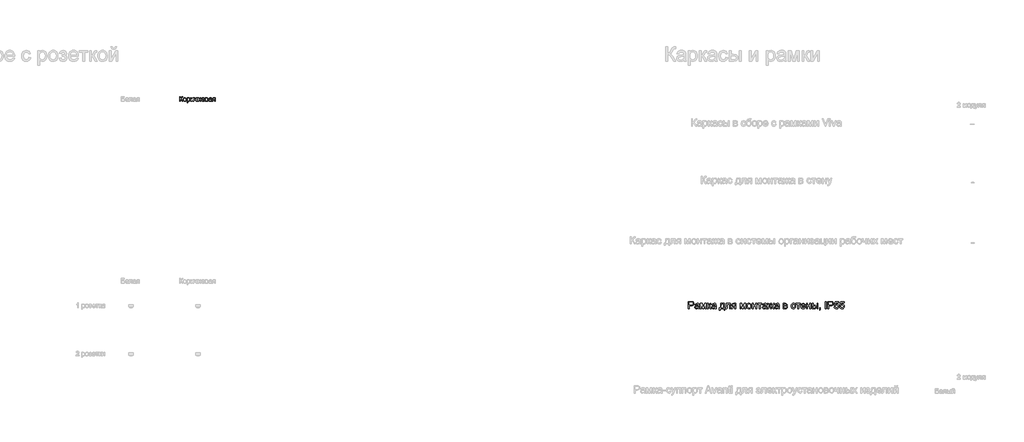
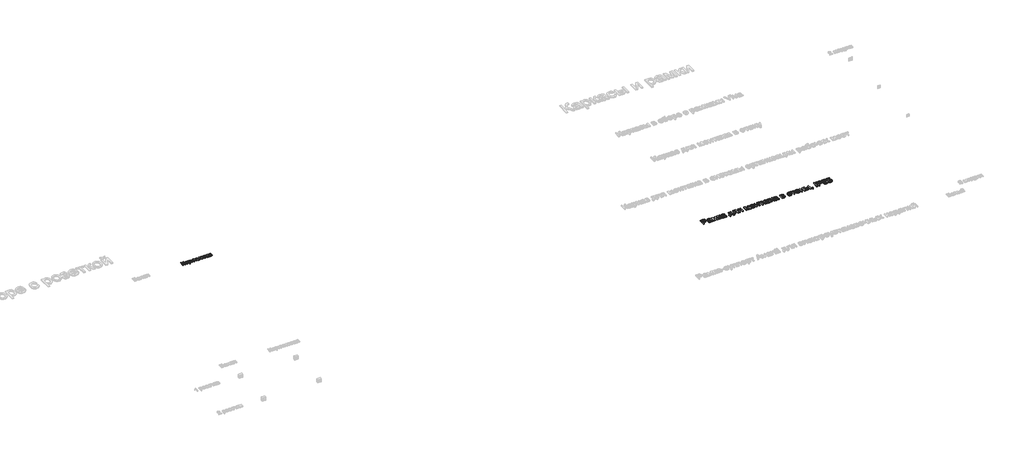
# One storey, part 44 of 48: 2 proxies.
"""IFC4 building model written with IfcOpenShell, lengths in millimetres."""

from ifc_helpers import new_model, si_unit, origin, origin_with_axes, place, context, project, spatial, polyline, outline, extrude, element, save

model = new_model("IFC4")

# Units and contexts
model_context = context("Model", 3, world=origin())
ifc_project = project(units=[si_unit("LENGTHUNIT", "METRE", prefix="MILLI")], contexts=[model_context])

# Site, building, storey
site = spatial("IfcSite", under=ifc_project)
building = spatial("IfcBuilding", under=site)
storey = spatial("IfcBuildingStorey", under=building, Name="Этаж 01", Elevation=0.0)

# Proxies
placement = place(None, origin())
element("IfcBuildingElementProxy", 1, Name="150 мм Arial", ObjectType="150 мм Arial", at=placement, inside=storey, context=model_context, shape_type="SweptSolid", body=[
    extrude(outline(polyline([(71366.9361332, 40.6087331), (71366.9361332, 191.2931984), (71422.7806201, 191.2931984), (71445.2949982, 189.8584586), (71463.5971275, 182.8135184), (71475.4613218, 168.2453914), (71479.9494822, 147.6991819), (71476.9190542, 129.9396786), (71467.8277704, 115.1416254), (71450.8270237, 105.1536292), (71424.0682071, 101.8242971), (71385.7716914, 101.8242971), (71385.7716914, 40.6087331), (71366.9361332, 40.6087331)]), holes=[polyline([(71385.7716914, 120.6598553), (71425.1718531, 120.6598553), (71441.8736957, 122.3889007), (71452.9101555, 127.5760368), (71459.0629819, 135.8993669), (71461.113924, 147.0369943), (71456.2762758, 162.6351909), (71443.5659528, 171.1700532), (71424.7303947, 172.4576402), (71385.7716914, 172.4576402), (71385.7716914, 120.6598553)])]), origin_with_axes(), (0.0, 0.0, 1.0), 20.0),
    extrude(outline(polyline([(71574.1272729, 54.7354018), (71555.8619319, 41.9698965), (71535.6836044, 38.2542884), (71519.9428536, 40.4891715), (71508.3315781, 47.1938209), (71501.1716748, 57.3749551), (71498.7850403, 70.0392928), (71502.3902839, 84.9385136), (71511.8632452, 95.7542442), (71525.0518148, 101.9346617), (71541.3489872, 104.7673531), (71574.0169083, 111.2420762), (71574.1272729, 115.435931), (71572.8304889, 123.8420346), (71568.9401368, 129.3418704), (71560.2397276, 133.4253605), (71548.1180159, 134.7865239), (71529.0617285, 131.1628863), (71519.9750432, 118.3054105), (71501.1394851, 120.6598553), (71509.2880713, 139.0539551), (71525.6956083, 149.8328975), (71550.546037, 153.6220821), (71573.3731148, 150.2743559), (71586.2673788, 141.8682523), (71592.0431261, 129.084353), (71592.9628311, 112.6032396), (71592.9628311, 89.1691565), (71593.9193243, 56.446053), (71597.6717206, 40.6087331), (71578.8361625, 40.6087331), (71574.1272729, 54.7354018)]), holes=[polyline([(71574.1272729, 92.4065181), (71543.7402201, 86.6307707), (71527.5350182, 83.5773502), (71520.1957724, 78.6109432), (71517.6205985, 71.3636679), (71523.2307989, 61.1733367), (71539.6935182, 57.0898465), (71558.7498055, 61.596401), (71571.0370642, 72.5041021), (71574.0169083, 87.0722291), (71574.1272729, 92.4065181)])]), origin_with_axes(), (0.0, 0.0, 1.0), 20.0),
    extrude(outline(polyline([(71618.8617235, 151.2676373), (71651.2721273, 151.2676373), (71676.2513148, 62.6816529), (71703.1802768, 151.2676373), (71734.2295172, 151.2676373), (71734.2295172, 40.6087331), (71715.3939591, 40.6087331), (71715.3939591, 129.7097524), (71688.3178442, 40.6087331), (71663.5961741, 40.6087331), (71637.6972817, 133.9771835), (71637.6972817, 40.6087331), (71618.8617235, 40.6087331), (71618.8617235, 151.2676373)])), origin_with_axes(), (0.0, 0.0, 1.0), 20.0),
    extrude(outline(polyline([(71762.4828545, 151.2676373), (71781.3184126, 151.2676373), (71781.3184126, 104.1787419), (71793.936765, 107.5632563), (71804.2742491, 127.2817312), (71812.8642937, 144.2962735), (71820.4426628, 149.8328975), (71834.2198435, 151.2676373), (71837.8250871, 151.2676373), (71837.8250871, 132.3217145), (71832.7483155, 132.4320791), (71823.5512657, 130.4455164), (71817.0765425, 118.0478931), (71809.4797793, 104.6385944), (71798.8295956, 98.0719008), (71810.712184, 90.741852), (71822.3740433, 75.3000053), (71842.5339766, 40.6087331), (71821.1232445, 40.6087331), (71801.3679813, 74.5642413), (71791.4351675, 88.9300332), (71781.3184126, 92.4065181), (71781.3184126, 40.6087331), (71762.4828545, 40.6087331), (71762.4828545, 151.2676373)])), origin_with_axes(), (0.0, 0.0, 1.0), 20.0),
    extrude(outline(polyline([(71924.9395435, 54.7354018), (71906.6742025, 41.9698965), (71886.495875, 38.2542884), (71870.7551242, 40.4891715), (71859.1438487, 47.1938209), (71851.9839454, 57.3749551), (71849.5973109, 70.0392928), (71853.2025545, 84.9385136), (71862.6755158, 95.7542442), (71875.8640854, 101.9346617), (71892.1612578, 104.7673531), (71924.8291789, 111.2420762), (71924.9395435, 115.435931), (71923.6427595, 123.8420346), (71919.7524074, 129.3418704), (71911.0519982, 133.4253605), (71898.9302865, 134.7865239), (71879.8739991, 131.1628863), (71870.7873138, 118.3054105), (71851.9517557, 120.6598553), (71860.1003419, 139.0539551), (71876.5078789, 149.8328975), (71901.3583076, 153.6220821), (71924.1853854, 150.2743559), (71937.0796494, 141.8682523), (71942.8553967, 129.084353), (71943.7751017, 112.6032396), (71943.7751017, 89.1691565), (71944.7315949, 56.446053), (71948.4839912, 40.6087331), (71929.6484331, 40.6087331), (71924.9395435, 54.7354018)]), holes=[polyline([(71924.9395435, 92.4065181), (71894.5524907, 86.6307707), (71878.3472888, 83.5773502), (71871.008043, 78.6109432), (71868.4328691, 71.3636679), (71874.0430695, 61.1733367), (71890.5057888, 57.0898465), (71909.5620761, 61.596401), (71921.8493348, 72.5041021), (71924.8291789, 87.0722291), (71924.9395435, 92.4065181)])]), origin_with_axes(), (0.0, 0.0, 1.0), 20.0),
    extrude(outline(polyline([(72045.0162267, 151.2676373), (72115.6495698, 151.2676373), (72115.6495698, 59.4442913), (72129.7762384, 59.4442913), (72129.7762384, 10.0009511), (72110.9406803, 10.0009511), (72110.9406803, 40.6087331), (72033.2440029, 40.6087331), (72033.2440029, 10.0009511), (72014.4084447, 10.0009511), (72014.4084447, 59.4442913), (72026.1806686, 59.4442913), (72034.7385235, 74.9091307), (72040.7304015, 95.3679681), (72045.0162267, 151.2676373)]), holes=[polyline([(72061.4973401, 132.4320791), (72057.0827562, 89.5186444), (72047.3706715, 59.4442913), (72096.8140117, 59.4442913), (72096.8140117, 132.4320791), (72061.4973401, 132.4320791)])]), origin_with_axes(), (0.0, 0.0, 1.0), 20.0),
    extrude(outline(polyline([(72160.3840204, 151.2676373), (72245.1440321, 151.2676373), (72245.1440321, 40.7190977), (72226.308474, 40.7190977), (72226.308474, 132.4320791), (72179.2195786, 132.4320791), (72179.2195786, 79.6410128), (72177.9503857, 55.2872248), (72170.9790219, 45.004923), (72154.4979085, 40.6087331), (72139.1940175, 41.5652263), (72139.1940175, 59.4442913), (72147.6185152, 59.4442913), (72156.1349834, 60.6031196), (72159.5378918, 64.2819395), (72160.3840204, 80.7078706), (72160.3840204, 151.2676373)])), origin_with_axes(), (0.0, 0.0, 1.0), 20.0),
    extrude(outline(polyline([(72358.157381, 151.2676373), (72358.157381, 40.6087331), (72339.3218229, 40.6087331), (72339.3218229, 82.988739), (72329.0579152, 82.988739), (72315.0783994, 80.597506), (72301.9450122, 64.5210628), (72286.9354268, 40.6087331), (72265.1568127, 40.6087331), (72284.0659472, 70.8486331), (72292.4168685, 81.701152), (72300.1056022, 86.5204061), (72287.2297324, 90.4659405), (72278.1798353, 97.9615362), (72272.8271523, 107.9311383), (72271.0429246, 119.2986919), (72273.4801428, 132.1929558), (72280.7917975, 142.4016812), (72292.7203712, 149.0511483), (72309.0083465, 151.2676373), (72358.157381, 151.2676373)]), holes=[polyline([(72339.3218229, 132.4320791), (72314.4897882, 132.4320791), (72301.6645022, 131.3422287), (72294.3850372, 128.0726775), (72289.8784827, 117.8639521), (72291.5385502, 110.6856547), (72296.5187528, 105.7054522), (72320.0448063, 101.8242971), (72339.3218229, 101.8242971), (72339.3218229, 132.4320791)])]), origin_with_axes(), (0.0, 0.0, 1.0), 20.0),
    extrude(outline(polyline([(72445.2718375, 151.2676373), (72477.6822413, 151.2676373), (72502.6614287, 62.6816529), (72529.5903908, 151.2676373), (72560.6396312, 151.2676373), (72560.6396312, 40.6087331), (72541.804073, 40.6087331), (72541.804073, 129.7097524), (72514.7279582, 40.6087331), (72490.0062881, 40.6087331), (72464.1073957, 133.9771835), (72464.1073957, 40.6087331), (72445.2718375, 40.6087331), (72445.2718375, 151.2676373)])), origin_with_axes(), (0.0, 0.0, 1.0), 20.0),
    extrude(outline(polyline([(72584.1840789, 95.9381852), (72588.258372, 122.6188269), (72600.4812513, 141.3716116), (72615.5828072, 150.5594645), (72633.6642072, 153.6220821), (72653.45166, 149.8926783), (72669.2567903, 138.7044672), (72679.617267, 120.9403653), (72683.0707592, 97.4832896), (72681.5440489, 78.4545934), (72676.9639181, 63.9692398), (72669.4637239, 53.1213195), (72659.1768236, 45.004923), (72646.9585428, 39.941947), (72633.6642072, 38.2542884), (72613.6376311, 41.9698965), (72597.850895, 53.116721), (72587.6007829, 71.2533033), (72584.1840789, 95.9381852)]), holes=[polyline([(72603.019637, 95.9749734), (72605.1993379, 78.9282415), (72611.7384403, 66.7835371), (72621.5792837, 59.5132692), (72633.6642072, 57.0898465), (72645.6939485, 59.5270647), (72655.5163977, 66.8387194), (72662.0555002, 79.1443721), (72664.235201, 96.5635846), (72662.0417046, 113.1136759), (72655.4612154, 125.0928333), (72645.6249706, 132.3631013), (72633.6642072, 134.7865239), (72621.5792837, 132.3722983), (72611.7384403, 125.1296215), (72605.1993379, 113.0125083), (72603.019637, 95.9749734)])]), origin_with_axes(), (0.0, 0.0, 1.0), 20.0),
    extrude(outline(polyline([(72704.2607621, 151.2676373), (72723.0963203, 151.2676373), (72723.0963203, 108.8876314), (72772.5396604, 108.8876314), (72772.5396604, 151.2676373), (72791.3752186, 151.2676373), (72791.3752186, 40.6087331), (72772.5396604, 40.6087331), (72772.5396604, 90.0520733), (72723.0963203, 90.0520733), (72723.0963203, 40.6087331), (72704.2607621, 40.6087331), (72704.2607621, 151.2676373)])), origin_with_axes(), (0.0, 0.0, 1.0), 20.0),
    extrude(outline(polyline([(72810.2107767, 151.2676373), (72899.6796779, 151.2676373), (72899.6796779, 132.4320791), (72864.3630064, 132.4320791), (72864.3630064, 40.6087331), (72845.5274483, 40.6087331), (72845.5274483, 132.4320791), (72810.2107767, 132.4320791), (72810.2107767, 151.2676373)])), origin_with_axes(), (0.0, 0.0, 1.0), 20.0),
    extrude(outline(polyline([(72986.7941344, 54.7354018), (72968.5287933, 41.9698965), (72948.3504659, 38.2542884), (72932.609715, 40.4891715), (72920.9984396, 47.1938209), (72913.8385362, 57.3749551), (72911.4519018, 70.0392928), (72915.0571453, 84.9385136), (72924.5301067, 95.7542442), (72937.7186762, 101.9346617), (72954.0158486, 104.7673531), (72986.6837698, 111.2420762), (72986.7941344, 115.435931), (72985.4973504, 123.8420346), (72981.6069983, 129.3418704), (72972.9065891, 133.4253605), (72960.7848773, 134.7865239), (72941.72859, 131.1628863), (72932.6419047, 118.3054105), (72913.8063466, 120.6598553), (72921.9549328, 139.0539551), (72938.3624697, 149.8328975), (72963.2128985, 153.6220821), (72986.0399763, 150.2743559), (72998.9342402, 141.8682523), (73004.7099876, 129.084353), (73005.6296926, 112.6032396), (73005.6296926, 89.1691565), (73006.5861857, 56.446053), (73010.3385821, 40.6087331), (72991.5030239, 40.6087331), (72986.7941344, 54.7354018)]), holes=[polyline([(72986.7941344, 92.4065181), (72956.4070816, 86.6307707), (72940.2018797, 83.5773502), (72932.8626339, 78.6109432), (72930.2874599, 71.3636679), (72935.8976604, 61.1733367), (72952.3603797, 57.0898465), (72971.416667, 61.596401), (72983.7039256, 72.5041021), (72986.6837698, 87.0722291), (72986.7941344, 92.4065181)])]), origin_with_axes(), (0.0, 0.0, 1.0), 20.0),
    extrude(outline(polyline([(73099.8074833, 151.2676373), (73099.8074833, 104.1787419), (73110.7887609, 108.059897), (73121.1814272, 128.2014362), (73133.5790505, 147.5152409), (73151.200598, 151.2676373), (73158.6686025, 151.2676373), (73158.6686025, 132.3217145), (73153.4814664, 132.4320791), (73143.7693817, 130.4823046), (73137.0371412, 118.2686223), (73129.2196488, 104.8777177), (73118.0544303, 98.0719008), (73130.3692801, 90.741852), (73142.3714302, 75.3000053), (73163.3774921, 40.6087331), (73141.782819, 40.6087331), (73121.1078508, 74.8217587), (73110.5680317, 89.0403978), (73099.8074833, 92.4065181), (73099.8074833, 40.6087331), (73080.9719252, 40.6087331), (73080.9719252, 92.4065181), (73070.248165, 89.1139742), (73059.6347694, 74.8953351), (73038.9598013, 40.6087331), (73017.4019164, 40.6087331), (73038.3344019, 75.3000053), (73050.4285225, 90.741852), (73062.7985546, 98.0719008), (73050.9527544, 105.5766935), (73040.7992113, 124.8904982), (73035.8328044, 131.2548568), (73027.7026123, 132.5424437), (73022.1108059, 132.4320791), (73022.1108059, 151.2676373), (73024.9434973, 151.2676373), (73041.4613989, 150.0904149), (73050.0330494, 145.0872198), (73059.6347694, 128.2014362), (73069.9170712, 108.1886557), (73080.9719252, 104.1787419), (73080.9719252, 151.2676373), (73099.8074833, 151.2676373)])), origin_with_axes(), (0.0, 0.0, 1.0), 20.0),
    extrude(outline(polyline([(73243.4286142, 54.7354018), (73225.1632732, 41.9698965), (73204.9849457, 38.2542884), (73189.2441949, 40.4891715), (73177.6329194, 47.1938209), (73170.4730161, 57.3749551), (73168.0863816, 70.0392928), (73171.6916252, 84.9385136), (73181.1645866, 95.7542442), (73194.3531561, 101.9346617), (73210.6503285, 104.7673531), (73243.3182496, 111.2420762), (73243.4286142, 115.435931), (73242.1318302, 123.8420346), (73238.2414781, 129.3418704), (73229.5410689, 133.4253605), (73217.4193572, 134.7865239), (73198.3630698, 131.1628863), (73189.2763845, 118.3054105), (73170.4408264, 120.6598553), (73178.5894126, 139.0539551), (73194.9969496, 149.8328975), (73219.8473783, 153.6220821), (73242.6744561, 150.2743559), (73255.5687201, 141.8682523), (73261.3444674, 129.084353), (73262.2641724, 112.6032396), (73262.2641724, 89.1691565), (73263.2206656, 56.446053), (73266.9730619, 40.6087331), (73248.1375038, 40.6087331), (73243.4286142, 54.7354018)]), holes=[polyline([(73243.4286142, 92.4065181), (73213.0415614, 86.6307707), (73196.8363595, 83.5773502), (73189.4971137, 78.6109432), (73186.9219398, 71.3636679), (73192.5321402, 61.1733367), (73208.9948595, 57.0898465), (73228.0511468, 61.596401), (73240.3384055, 72.5041021), (73243.3182496, 87.0722291), (73243.4286142, 92.4065181)])]), origin_with_axes(), (0.0, 0.0, 1.0), 20.0),
    extrude(outline(polyline([(73347.0241841, 151.2676373), (73388.5212731, 151.2676373), (73411.2747745, 148.7476456), (73424.077068, 139.5138075), (73429.429751, 123.4189703), (73426.1923894, 110.3407653), (73416.4435166, 101.0149568), (73429.0986572, 90.8062314), (73434.1386405, 73.0559251), (73430.9472642, 58.6993303), (73423.3596981, 48.5917724), (73411.3483509, 42.604493), (73394.8856317, 40.6087331), (73347.0241841, 40.6087331), (73347.0241841, 151.2676373)]), holes=[polyline([(73365.8597422, 108.8876314), (73384.4745712, 108.8876314), (73399.8336445, 109.8441246), (73407.301649, 113.6700974), (73410.5941928, 120.5862789), (73409.150256, 126.2056764), (73404.8184455, 129.820117), (73385.0631824, 132.4320791), (73365.8597422, 132.4320791), (73365.8597422, 108.8876314)]), polyline([(73365.8597422, 59.4442913), (73388.9627315, 59.4442913), (73409.4537587, 62.8471998), (73413.6935987, 67.4871114), (73415.3030824, 74.6010295), (73412.0841149, 83.6693207), (73403.6964054, 88.9484273), (73387.1233216, 90.0520733), (73365.8597422, 90.0520733), (73365.8597422, 59.4442913)])]), origin_with_axes(), (0.0, 0.0, 1.0), 20.0),
    extrude(outline(polyline([(73587.1775505, 80.6342942), (73606.0131087, 78.2798494), (73600.7615932, 61.5274231), (73590.8931587, 48.8676839), (73577.3367072, 40.9076373), (73561.0211407, 38.2542884), (73540.9853675, 41.9561009), (73525.318193, 53.0615387), (73515.2060367, 71.0831579), (73511.8353179, 95.533515), (73513.2746562, 112.2951384), (73517.5926711, 126.8218787), (73524.8583405, 138.5527158), (73535.1406423, 146.9266297), (73547.4416965, 151.948219), (73560.7636233, 153.6220821), (73576.6791181, 151.3228196), (73589.4032366, 144.4250322), (73598.5313086, 133.2966018), (73603.6586639, 118.3054105), (73584.8231058, 115.9509658), (73576.0859084, 130.0592403), (73560.9107761, 134.7865239), (73548.7384806, 132.4596703), (73539.0769797, 125.4791094), (73532.772402, 113.4677623), (73530.6708761, 96.0485498), (73532.7264167, 78.3948126), (73538.8930387, 66.3420787), (73548.3797956, 59.4029046), (73560.3957413, 57.0898465), (73570.1492127, 58.5337834), (73578.1460475, 62.8655939), (73583.9631816, 70.1956426), (73587.1775505, 80.6342942)])), origin_with_axes(), (0.0, 0.0, 1.0), 20.0),
    extrude(outline(polyline([(73613.076443, 151.2676373), (73702.5453442, 151.2676373), (73702.5453442, 132.4320791), (73667.2286727, 132.4320791), (73667.2286727, 40.6087331), (73648.3931145, 40.6087331), (73648.3931145, 132.4320791), (73613.076443, 132.4320791), (73613.076443, 151.2676373)])), origin_with_axes(), (0.0, 0.0, 1.0), 20.0),
    extrude(outline(polyline([(73796.5024058, 73.5709599), (73814.9700819, 71.2165151), (73808.3160164, 57.3013787), (73797.6980223, 46.8995153), (73783.355223, 40.4155951), (73765.5267418, 38.2542884), (73743.4262309, 41.9836921), (73726.4208857, 53.1719033), (73715.5775639, 71.092355), (73711.9631233, 95.0184802), (73715.6143521, 119.7493474), (73726.5680385, 138.2446147), (73743.3434575, 149.7777152), (73764.459884, 153.6220821), (73784.9187215, 149.7869123), (73801.2664776, 138.2814029), (73811.9856393, 119.8229238), (73815.5586931, 95.1288448), (73815.4483285, 90.0520733), (73730.7986814, 90.0520733), (73734.0590356, 75.9529958), (73741.6328062, 65.5879206), (73752.5635, 59.214365), (73765.8946238, 57.0898465), (73784.3622999, 61.0261839), (73796.5024058, 73.5709599)]), holes=[polyline([(73730.7986814, 108.8876314), (73796.723135, 108.8876314), (73794.1755522, 118.8388394), (73789.1815541, 125.957356), (73778.2002765, 132.5792319), (73764.3863076, 134.7865239), (73751.6897802, 133.0252889), (73741.1913478, 127.7415837), (73733.8934887, 119.5056255), (73730.7986814, 108.8876314)])]), origin_with_axes(), (0.0, 0.0, 1.0), 20.0),
    extrude(outline(polyline([(73834.3942513, 151.2676373), (73853.2298094, 151.2676373), (73853.2298094, 108.8876314), (73902.6731496, 108.8876314), (73902.6731496, 151.2676373), (73921.5087077, 151.2676373), (73921.5087077, 40.6087331), (73902.6731496, 40.6087331), (73902.6731496, 90.0520733), (73853.2298094, 90.0520733), (73853.2298094, 40.6087331), (73834.3942513, 40.6087331), (73834.3942513, 151.2676373)])), origin_with_axes(), (0.0, 0.0, 1.0), 20.0),
    extrude(outline(polyline([(74053.3576148, 151.2676373), (74072.193173, 151.2676373), (74072.193173, 40.6087331), (74053.3576148, 40.6087331), (74053.3576148, 151.2676373)])), origin_with_axes(), (0.0, 0.0, 1.0), 20.0),
    extrude(outline(polyline([(73949.762045, 151.2676373), (73968.5976031, 151.2676373), (73968.5976031, 111.2420762), (73991.8845334, 111.2420762), (74012.0122771, 108.8830329), (74026.9252935, 101.805903), (74036.154533, 90.5809037), (74039.2309462, 75.7782519), (74036.6511737, 62.2999753), (74028.9118562, 50.9278231), (74015.507156, 43.1885056), (73995.9312354, 40.6087331), (73949.762045, 40.6087331), (73949.762045, 151.2676373)]), holes=[polyline([(73968.5976031, 59.4442913), (73987.9481961, 59.4442913), (74012.9273835, 63.3990227), (74018.5283869, 68.4619987), (74020.395388, 75.7414637), (74014.858764, 87.3297465), (74005.9790124, 91.1373252), (73990.4130054, 92.4065181), (73968.5976031, 92.4065181), (73968.5976031, 59.4442913)])]), origin_with_axes(), (0.0, 0.0, 1.0), 20.0),
    extrude(outline(polyline([(74105.1553997, 40.6087331), (74105.1553997, 59.4442913), (74123.9909579, 59.4442913), (74123.9909579, 40.6087331), (74120.6064435, 21.3501107), (74109.8642893, 10.0009511), (74105.1553997, 17.0642855), (74112.0715812, 25.1944775), (74114.5363906, 40.6087331), (74105.1553997, 40.6087331)])), origin_with_axes(), (0.0, 0.0, 1.0), 20.0),
    extrude(outline(polyline([(74222.8776382, 40.6087331), (74222.8776382, 191.2931984), (74241.7131963, 191.2931984), (74241.7131963, 40.6087331), (74222.8776382, 40.6087331)])), origin_with_axes(), (0.0, 0.0, 1.0), 20.0),
    extrude(outline(polyline([(74279.3843127, 40.6087331), (74279.3843127, 191.2931984), (74335.2287995, 191.2931984), (74357.7431776, 189.8584586), (74376.0453069, 182.8135184), (74387.9095012, 168.2453914), (74392.3976616, 147.6991819), (74389.3672336, 129.9396786), (74380.2759498, 115.1416254), (74363.2752031, 105.1536292), (74336.5163865, 101.8242971), (74298.2198708, 101.8242971), (74298.2198708, 40.6087331), (74279.3843127, 40.6087331)]), holes=[polyline([(74298.2198708, 120.6598553), (74337.6200325, 120.6598553), (74354.3218751, 122.3889007), (74365.3583349, 127.5760368), (74371.5111613, 135.8993669), (74373.5621034, 147.0369943), (74368.7244552, 162.6351909), (74356.0141322, 171.1700532), (74337.1785741, 172.4576402), (74298.2198708, 172.4576402), (74298.2198708, 120.6598553)])]), origin_with_axes(), (0.0, 0.0, 1.0), 20.0),
    extrude(outline(polyline([(74411.2332197, 80.6342942), (74430.0687779, 82.988739), (74433.5268686, 71.6809662), (74439.5601334, 63.5829637), (74448.1409809, 58.7131258), (74459.2418201, 57.0898465), (74472.7430893, 59.3477223), (74482.8598442, 66.1213495), (74489.1782175, 76.628979), (74491.2843419, 90.0888615), (74489.3115747, 102.7623962), (74483.3932731, 112.4560868), (74473.4834518, 118.6089132), (74459.5361257, 120.6598553), (74442.99983, 117.3857055), (74432.4232226, 108.8876314), (74413.5876645, 111.2420762), (74430.0687779, 188.9387536), (74503.0565657, 188.9387536), (74503.0565657, 170.1031954), (74445.2990925, 170.1031954), (74437.2424768, 128.6061064), (74450.6977608, 136.7730867), (74464.7968382, 139.4954134), (74482.3953932, 136.1200961), (74497.0049069, 125.9941442), (74506.8411517, 110.5614945), (74510.1199, 91.2660839), (74507.167647, 72.4305257), (74498.310888, 56.3172943), (74481.351528, 42.7700399), (74459.1682437, 38.2542884), (74440.6683779, 41.1559576), (74425.9301054, 49.8609653), (74415.8271461, 63.357636), (74411.2332197, 80.6342942)])), origin_with_axes(), (0.0, 0.0, 1.0), 20.0),
    extrude(outline(polyline([(74526.6010134, 80.6342942), (74545.4365716, 82.988739), (74548.8946623, 71.6809662), (74554.927927, 63.5829637), (74563.5087746, 58.7131258), (74574.6096138, 57.0898465), (74588.110883, 59.3477223), (74598.2276379, 66.1213495), (74604.5460111, 76.628979), (74606.6521356, 90.0888615), (74604.6793684, 102.7623962), (74598.7610668, 112.4560868), (74588.8512455, 118.6089132), (74574.9039194, 120.6598553), (74558.3676237, 117.3857055), (74547.7910163, 108.8876314), (74528.9554582, 111.2420762), (74545.4365716, 188.9387536), (74618.4243594, 188.9387536), (74618.4243594, 170.1031954), (74560.6668862, 170.1031954), (74552.6102705, 128.6061064), (74566.0655544, 136.7730867), (74580.1646319, 139.4954134), (74597.7631869, 136.1200961), (74612.3727006, 125.9941442), (74622.2089454, 110.5614945), (74625.4876937, 91.2660839), (74622.5354407, 72.4305257), (74613.6786817, 56.3172943), (74596.7193217, 42.7700399), (74574.5360374, 38.2542884), (74556.0361716, 41.1559576), (74541.2978991, 49.8609653), (74531.1949398, 63.357636), (74526.6010134, 80.6342942)])), origin_with_axes(), (0.0, 0.0, 1.0), 20.0),
])
element("IfcBuildingElementProxy", 2, Name="100 мм Arial", ObjectType="100 мм Arial", at=placement, inside=storey, context=model_context, shape_type="SweptSolid", body=[
    extrude(outline(polyline([(60740.6797795, 4472.3314949), (60753.2368182, 4472.3314949), (60753.2368182, 4428.3818593), (60767.2776477, 4431.7050599), (60777.0755715, 4448.5172671), (60784.0040158, 4462.5580966), (60791.852165, 4469.5110663), (60803.0725658, 4472.3314949), (60811.3131225, 4472.1843421), (60811.3131225, 4459.6273034), (60808.5417448, 4459.7008798), (60805.7703671, 4459.7744562), (60795.9601806, 4456.7578238), (60788.5044388, 4443.8329031), (60779.6139573, 4428.0875537), (60770.9442049, 4422.8881548), (60780.6378955, 4417.2105093), (60790.196696, 4405.3769718), (60811.3131225, 4371.8751848), (60796.7449955, 4371.8751848), (60778.890456, 4400.177573), (60766.3211545, 4414.9541664), (60753.2368182, 4418.9640802), (60753.2368182, 4371.8751848), (60740.6797795, 4371.8751848), (60740.6797795, 4472.3314949)])), origin_with_axes(), (0.0, 0.0, 1.0), 20.0),
    extrude(outline(polyline([(60817.5916419, 4408.7614862), (60820.3078373, 4426.5485806), (60828.4564235, 4439.0504371), (60838.5241274, 4445.1756723), (60850.5783941, 4447.2174174), (60863.7700294, 4444.7311483), (60874.3067828, 4437.2723408), (60881.2137673, 4425.4296062), (60883.5160955, 4409.7915558), (60879.444868, 4387.4488559), (60867.5868051, 4374.805978), (60850.5783941, 4370.305555), (60837.2273434, 4372.7826271), (60826.7028527, 4380.2138434), (60819.8694446, 4392.3048983), (60817.5916419, 4408.7614862)]), holes=[polyline([(60830.1486807, 4408.7860116), (60831.6018146, 4397.4215237), (60835.9612162, 4389.3250541), (60842.5217785, 4384.4782088), (60850.5783941, 4382.8625937), (60858.5982216, 4384.4874059), (60865.1465212, 4389.3618423), (60869.5059228, 4397.5656108), (60870.9590567, 4409.1784191), (60869.4967258, 4420.2118133), (60865.109733, 4428.1979183), (60858.5522364, 4433.0447635), (60850.5783941, 4434.6603786), (60842.5217785, 4433.0508949), (60835.9612162, 4428.2224437), (60831.6018146, 4420.1443682), (60830.1486807, 4408.7860116)])]), origin_with_axes(), (0.0, 0.0, 1.0), 20.0),
    extrude(outline(polyline([(60897.6427641, 4343.6218476), (60897.6427641, 4445.6477876), (60910.1998028, 4445.6477876), (60910.1998028, 4433.3360035), (60918.8818179, 4443.7470639), (60930.6049908, 4447.2174174), (60946.5220185, 4442.3613751), (60956.9208162, 4428.6761649), (60960.4279579, 4409.3255719), (60956.4670951, 4388.9816976), (60944.9646514, 4375.1248091), (60929.0844119, 4370.305555), (60918.1583167, 4373.5306538), (60910.1998028, 4381.6853713), (60910.1998028, 4343.6218476), (60897.6427641, 4343.6218476)]), holes=[polyline([(60910.1998028, 4408.172875), (60911.5579005, 4396.9156859), (60915.6321936, 4389.0430112), (60921.6439986, 4384.4076981), (60928.8146318, 4382.8625937), (60936.101761, 4384.4628804), (60942.2668501, 4389.2637404), (60946.4699019, 4397.4245894), (60947.8709191, 4409.1048427), (60946.5036244, 4420.3007181), (60942.4017401, 4428.2837574), (60936.3991323, 4433.0662233), (60929.3296666, 4434.6603786), (60922.2326098, 4432.9650558), (60916.0000756, 4427.8790872), (60911.649871, 4419.5618884), (60910.1998028, 4408.172875)])]), origin_with_axes(), (0.0, 0.0, 1.0), 20.0),
    extrude(outline(polyline([(60974.5546265, 4445.6477876), (60987.1116653, 4445.6477876), (60987.1116653, 4389.3863678), (61017.964702, 4445.6477876), (61034.2005607, 4445.6477876), (61034.2005607, 4371.8751848), (61021.6435219, 4371.8751848), (61021.6435219, 4427.7932481), (60990.986689, 4371.8751848), (60974.5546265, 4371.8751848), (60974.5546265, 4445.6477876)])), origin_with_axes(), (0.0, 0.0, 1.0), 20.0),
    extrude(outline(polyline([(61048.3272293, 4445.6477876), (61060.8842681, 4445.6477876), (61060.8842681, 4431.4965935), (61061.9020749, 4418.2283162), (61066.7949054, 4411.0423546), (61076.5069901, 4407.9766713), (61093.8464948, 4411.7781185), (61093.8464948, 4445.6477876), (61106.4035336, 4445.6477876), (61106.4035336, 4371.8751848), (61093.8464948, 4371.8751848), (61093.8464948, 4399.7361146), (61073.1470012, 4395.4196325), (61058.909968, 4399.9200556), (61050.5345213, 4410.9442527), (61048.3272293, 4425.2916505), (61048.3272293, 4445.6477876)])), origin_with_axes(), (0.0, 0.0, 1.0), 20.0),
    extrude(outline(polyline([(61125.2390917, 4445.6477876), (61137.7961305, 4445.6477876), (61137.7961305, 4417.3944503), (61170.7583573, 4417.3944503), (61170.7583573, 4445.6477876), (61183.3153961, 4445.6477876), (61183.3153961, 4371.8751848), (61170.7583573, 4371.8751848), (61170.7583573, 4404.8374116), (61137.7961305, 4404.8374116), (61137.7961305, 4371.8751848), (61125.2390917, 4371.8751848), (61125.2390917, 4445.6477876)])), origin_with_axes(), (0.0, 0.0, 1.0), 20.0),
    extrude(outline(polyline([(61253.8015863, 4393.8500026), (61266.1133704, 4392.2803728), (61261.6773267, 4383.0036152), (61254.598664, 4376.0690395), (61245.0367978, 4371.7464261), (61233.1511437, 4370.305555), (61218.4174698, 4372.7918241), (61207.0805729, 4380.2506316), (61199.8516917, 4392.1975993), (61197.4420647, 4408.1483495), (61199.8762172, 4424.6355943), (61207.1786748, 4436.9657725), (61218.3622875, 4444.6545062), (61232.4399051, 4447.2174174), (61246.0791301, 4444.6606375), (61256.9776342, 4436.9902979), (61264.123742, 4424.6846452), (61266.5057779, 4408.2219259), (61266.4322015, 4404.8374116), (61209.9991034, 4404.8374116), (61212.1726729, 4395.4380266), (61217.2218533, 4388.5279764), (61224.5089825, 4384.2789394), (61233.3963983, 4382.8625937), (61245.7081824, 4385.4868186), (61253.8015863, 4393.8500026)]), holes=[polyline([(61209.9991034, 4417.3944503), (61253.9487391, 4417.3944503), (61248.9210185, 4428.7742667), (61241.6001668, 4433.1888507), (61232.3908542, 4434.6603786), (61216.9275477, 4429.9637518), (61212.0623083, 4424.4731131), (61209.9991034, 4417.3944503)])]), origin_with_axes(), (0.0, 0.0, 1.0), 20.0),
    extrude(outline(polyline([(61279.0628167, 4445.6477876), (61306.7275427, 4445.6477876), (61321.8965436, 4443.9677931), (61330.4314059, 4437.8119011), (61333.9998613, 4427.0820095), (61331.8416202, 4418.3632063), (61325.3423717, 4412.1460005), (61333.7791321, 4405.3401836), (61337.139121, 4393.5066461), (61335.0115368, 4383.9355829), (61329.9531593, 4377.197211), (61321.9455946, 4373.2056913), (61310.9704484, 4371.8751848), (61279.0628167, 4371.8751848), (61279.0628167, 4445.6477876)]), holes=[polyline([(61291.6198554, 4417.3944503), (61304.0297414, 4417.3944503), (61314.2691236, 4418.0321125), (61319.2477933, 4420.582761), (61321.4428225, 4425.1935486), (61317.5923243, 4431.3494407), (61304.4221489, 4433.0907488), (61291.6198554, 4433.0907488), (61291.6198554, 4417.3944503)]), polyline([(61291.6198554, 4384.4322236), (61307.0218483, 4384.4322236), (61320.6825331, 4386.7008292), (61324.5820822, 4394.5367157), (61322.4361039, 4400.5822432), (61316.8442976, 4404.1016476), (61305.795575, 4404.8374116), (61291.6198554, 4404.8374116), (61291.6198554, 4384.4322236)])]), origin_with_axes(), (0.0, 0.0, 1.0), 20.0),
    extrude(outline(polyline([(61399.9243148, 4381.2929639), (61387.7474208, 4372.7826271), (61374.2952025, 4370.305555), (61363.8013686, 4371.795477), (61356.0605183, 4376.2652433), (61351.2872494, 4383.0526661), (61349.6961597, 4391.4955579), (61352.0996554, 4401.4283717), (61358.414963, 4408.6388588), (61367.2073427, 4412.7591372), (61378.0721243, 4414.6475981), (61399.8507384, 4418.9640802), (61399.9243148, 4421.7599833), (61396.4662241, 4431.0306096), (61382.5848101, 4434.6603786), (61369.8806185, 4432.2446202), (61363.8228284, 4423.6729697), (61351.2657896, 4425.2425996), (61356.6981804, 4437.5053327), (61367.6365384, 4444.6912944), (61384.2034909, 4447.2174174), (61399.4215428, 4444.9856), (61408.0177187, 4439.3815309), (61411.8682169, 4430.8589314), (61412.4813536, 4419.8715224), (61412.4813536, 4404.2488004), (61413.1190157, 4382.4333981), (61415.6206133, 4371.8751848), (61403.0635745, 4371.8751848), (61399.9243148, 4381.2929639)]), holes=[polyline([(61399.9243148, 4406.4070414), (61379.6662796, 4402.5565432), (61368.8628117, 4400.5209295), (61363.9699812, 4397.2099915), (61362.2531985, 4392.3784747), (61365.9933321, 4385.5849205), (61376.9684783, 4382.8625937), (61389.6726699, 4385.8669633), (61397.8641756, 4393.1387641), (61399.8507384, 4402.8508488), (61399.9243148, 4406.4070414)])]), origin_with_axes(), (0.0, 0.0, 1.0), 20.0),
    extrude(outline(polyline([(61486.2539563, 4445.6477876), (61486.2539563, 4371.8751848), (61473.6969176, 4371.8751848), (61473.6969176, 4400.128522), (61466.8543125, 4400.128522), (61457.5346353, 4398.5343667), (61448.7790438, 4387.8167379), (61438.7726535, 4371.8751848), (61424.2535774, 4371.8751848), (61436.8596671, 4392.0351181), (61447.5527705, 4402.4829668), (61438.9688572, 4405.1133231), (61432.9355925, 4410.1103868), (61428.177652, 4424.3351573), (61429.8024642, 4432.9313333), (61434.6769006, 4439.7371502), (61442.6292831, 4444.1701282), (61453.4879333, 4445.6477876), (61486.2539563, 4445.6477876)]), holes=[polyline([(61473.6969176, 4433.0907488), (61457.1422278, 4433.0907488), (61443.7390604, 4430.184481), (61440.7346908, 4423.3786641), (61445.1615375, 4415.2729975), (61460.8455732, 4412.6855608), (61473.6969176, 4412.6855608), (61473.6969176, 4433.0907488)])]), origin_with_axes(), (0.0, 0.0, 1.0), 20.0),
])

save(model, "model.ifc")
